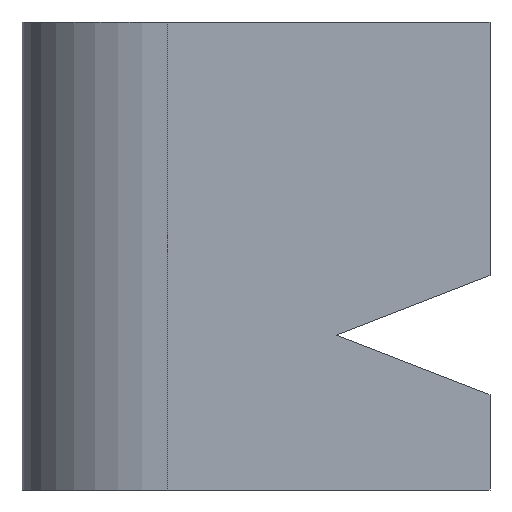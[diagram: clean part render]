
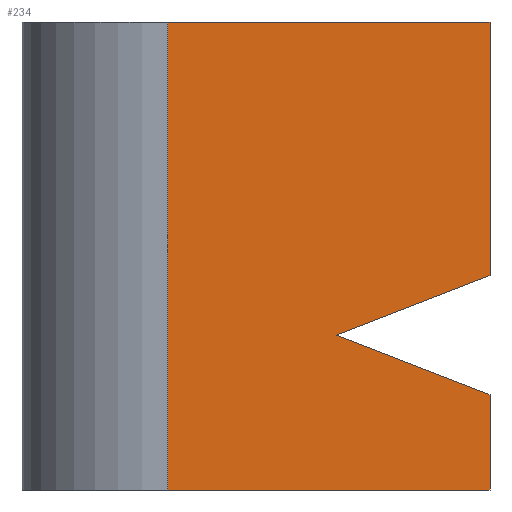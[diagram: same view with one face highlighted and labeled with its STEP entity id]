
A CAD part, front view. The second image highlights one B-rep face of the part: STEP entity #234.
In plain terms, the highlighted planar face has unit normal (0, -1, 0).
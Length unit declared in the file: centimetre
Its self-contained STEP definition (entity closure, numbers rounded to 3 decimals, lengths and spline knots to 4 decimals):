
#7 = EDGE_CURVE ( 'NONE', #548, #122, #296, .T. ) ;
#11 = VERTEX_POINT ( 'NONE', #469 ) ;
#13 = VECTOR ( 'NONE', #406, 100. ) ;
#28 = EDGE_LOOP ( 'NONE', ( #148, #190, #137, #517, #141, #107, #456 ) ) ;
#50 = EDGE_CURVE ( 'NONE', #294, #109, #242, .T. ) ;
#57 = FACE_OUTER_BOUND ( 'NONE', #28, .T. ) ;
#72 = CARTESIAN_POINT ( 'NONE',  ( 1000., 0., 0. ) ) ;
#75 = CARTESIAN_POINT ( 'NONE',  ( 0., 0., 1000. ) ) ;
#87 = VERTEX_POINT ( 'NONE', #155 ) ;
#94 = CARTESIAN_POINT ( 'NONE',  ( 310.9428, 0., 1000. ) ) ;
#107 = ORIENTED_EDGE ( 'NONE', *, *, #422, .T. ) ;
#109 = VERTEX_POINT ( 'NONE', #72 ) ;
#122 = VERTEX_POINT ( 'NONE', #552 ) ;
#123 = DIRECTION ( 'NONE',  ( 0., 0., 1. ) ) ;
#125 = CARTESIAN_POINT ( 'NONE',  ( 671.6723, 0., 330.9115 ) ) ;
#133 = CARTESIAN_POINT ( 'NONE',  ( 0., 0., 0. ) ) ;
#137 = ORIENTED_EDGE ( 'NONE', *, *, #487, .F. ) ;
#141 = ORIENTED_EDGE ( 'NONE', *, *, #7, .F. ) ;
#148 = ORIENTED_EDGE ( 'NONE', *, *, #50, .F. ) ;
#150 = VECTOR ( 'NONE', #473, 100. ) ;
#155 = CARTESIAN_POINT ( 'NONE',  ( 671.6723, 0., 330.9115 ) ) ;
#177 = VECTOR ( 'NONE', #512, 100. ) ;
#185 = LINE ( 'NONE', #94, #288 ) ;
#190 = ORIENTED_EDGE ( 'NONE', *, *, #202, .F. ) ;
#194 = PLANE ( 'NONE',  #330 ) ;
#198 = VECTOR ( 'NONE', #251, 100. ) ;
#202 = EDGE_CURVE ( 'NONE', #87, #294, #313, .T. ) ;
#207 = CARTESIAN_POINT ( 'NONE',  ( 1000., 0., 203.5912 ) ) ;
#228 = CARTESIAN_POINT ( 'NONE',  ( 0., 0., 1000. ) ) ;
#233 = CARTESIAN_POINT ( 'NONE',  ( 1000., 0., 203.5912 ) ) ;
#234 = ADVANCED_FACE ( 'NONE', ( #57 ), #194, .F. ) ;
#242 = LINE ( 'NONE', #281, #150 ) ;
#248 = CARTESIAN_POINT ( 'NONE',  ( 310.9428, 0., 1000. ) ) ;
#251 = DIRECTION ( 'NONE',  ( 0., 0., -1. ) ) ;
#260 = DIRECTION ( 'NONE',  ( 0., 0., -1. ) ) ;
#263 = EDGE_CURVE ( 'NONE', #122, #405, #284, .T. ) ;
#281 = CARTESIAN_POINT ( 'NONE',  ( 1000., 0., 1000. ) ) ;
#284 = LINE ( 'NONE', #298, #198 ) ;
#288 = VECTOR ( 'NONE', #260, 100. ) ;
#294 = VERTEX_POINT ( 'NONE', #207 ) ;
#296 = LINE ( 'NONE', #75, #455 ) ;
#298 = CARTESIAN_POINT ( 'NONE',  ( 1000., 0., 1000. ) ) ;
#313 = LINE ( 'NONE', #233, #13 ) ;
#330 = AXIS2_PLACEMENT_3D ( 'NONE', #228, #403, #123 ) ;
#358 = LINE ( 'NONE', #133, #366 ) ;
#366 = VECTOR ( 'NONE', #484, 100. ) ;
#403 = DIRECTION ( 'NONE',  ( 0., 1., 0. ) ) ;
#405 = VERTEX_POINT ( 'NONE', #526 ) ;
#406 = DIRECTION ( 'NONE',  ( 0.932, 0., -0.362 ) ) ;
#422 = EDGE_CURVE ( 'NONE', #548, #11, #185, .T. ) ;
#423 = DIRECTION ( 'NONE',  ( 1., 0., 0. ) ) ;
#450 = EDGE_CURVE ( 'NONE', #11, #109, #358, .T. ) ;
#455 = VECTOR ( 'NONE', #423, 100. ) ;
#456 = ORIENTED_EDGE ( 'NONE', *, *, #450, .T. ) ;
#469 = CARTESIAN_POINT ( 'NONE',  ( 310.9428, 0., 0. ) ) ;
#473 = DIRECTION ( 'NONE',  ( 0., 0., -1. ) ) ;
#484 = DIRECTION ( 'NONE',  ( 1., 0., 0. ) ) ;
#487 = EDGE_CURVE ( 'NONE', #405, #87, #556, .T. ) ;
#512 = DIRECTION ( 'NONE',  ( -0.932, 0., -0.362 ) ) ;
#517 = ORIENTED_EDGE ( 'NONE', *, *, #263, .F. ) ;
#526 = CARTESIAN_POINT ( 'NONE',  ( 1000., 0., 458.2319 ) ) ;
#548 = VERTEX_POINT ( 'NONE', #248 ) ;
#552 = CARTESIAN_POINT ( 'NONE',  ( 1000., 0., 1000. ) ) ;
#556 = LINE ( 'NONE', #125, #177 ) ;
